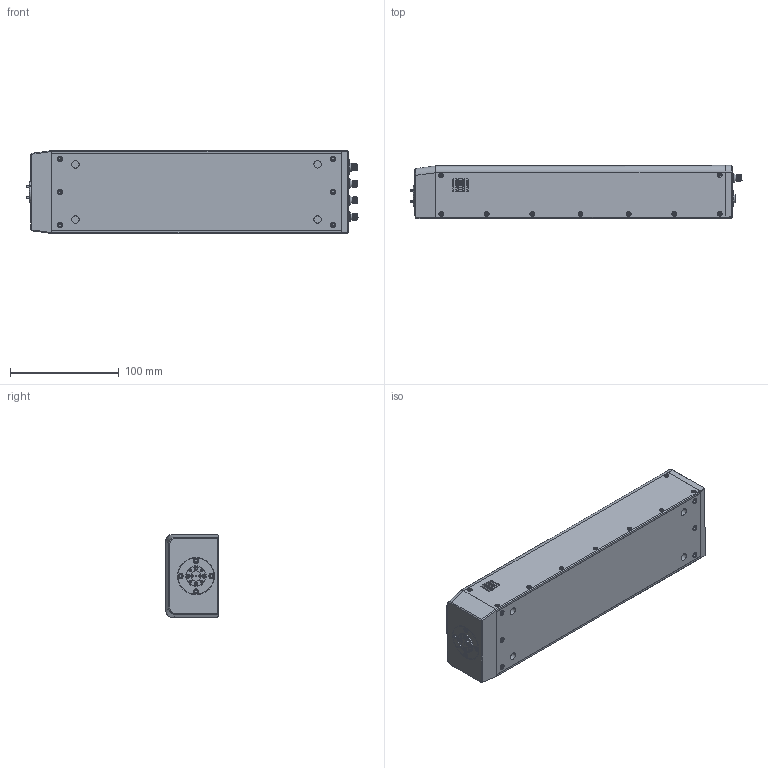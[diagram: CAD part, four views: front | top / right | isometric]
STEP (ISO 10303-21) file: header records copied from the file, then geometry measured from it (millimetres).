
FILE_DESCRIPTION (( 'STEP AP214' ), '1' );
FILE_NAME ('TO-SG-A_Mountable, Defeatured.STEP', '2023-06-28T19:18:50', ( '' ), ( '' ), 'SwSTEP 2.0', 'SolidWorks 2021', '' );
FILE_SCHEMA (( 'AUTOMOTIVE_DESIGN' ));
Length unit declared in the file: inch
Products named in the file (1): TO-SG-A_Mountable, Defeatured
Bounding box: 305.75 x 48.8 x 76.39 mm (x, y, z)
Volume: 1063377.8 mm3; surface area: 145617.6 mm2
Topology: 38 solids, 49 shells, 1797 faces, 4384 edges, 2754 vertices
Faces by surface type: plane 784, cylinder 617, cone 370, bspline 22, torus 4
Entity records: 83092 total; most frequent: CARTESIAN_POINT 20282, DIRECTION 8622, ORIENTED_EDGE 8576, EDGE_CURVE 4288, AXIS2_PLACEMENT_3D 3310, VERTEX_POINT 2754, EDGE_LOOP 2032, LINE 2002
